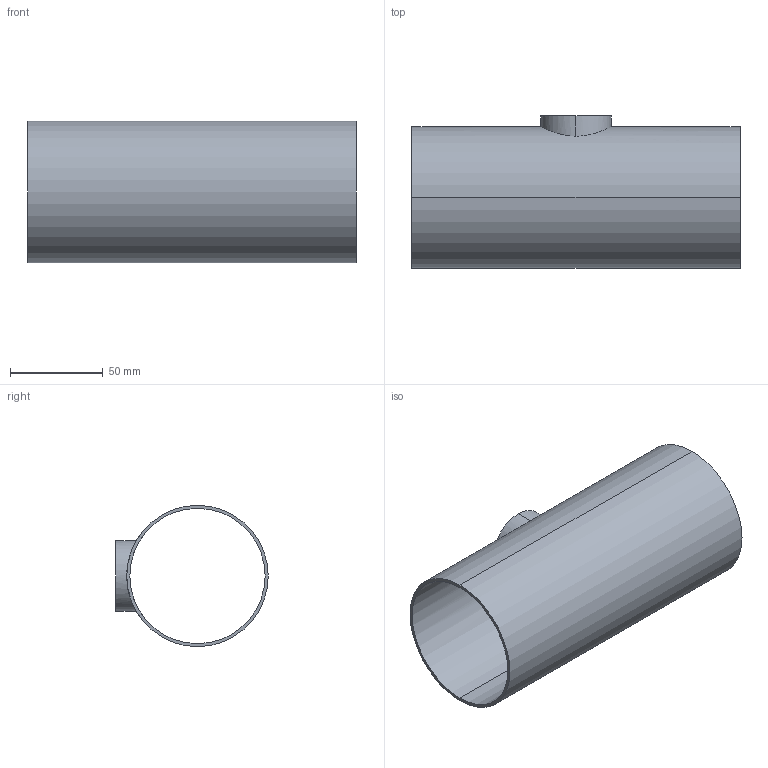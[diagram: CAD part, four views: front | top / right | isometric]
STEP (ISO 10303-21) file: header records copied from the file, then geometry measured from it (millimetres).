
FILE_DESCRIPTION (( 'STEP AP214' ), '1' );
FILE_NAME ('TEG7RS6L3.0x1.5-...STEP', '2016-05-24T10:52:11', ( 'eran' ), ( '' ), 'SwSTEP 2.0', 'SolidWorks 2016', '' );
FILE_SCHEMA (( 'AUTOMOTIVE_DESIGN' ));
Length unit declared in the file: millimetre
Products named in the file (1): TEG7RS6L3.0x1.5-..
Bounding box: 176.8 x 82.1 x 76.2 mm (x, y, z)
Volume: 68253.7 mm3; surface area: 83686 mm2
Topology: 1 solids, 1 shells, 11 faces, 24 edges, 16 vertices
Faces by surface type: cylinder 8, plane 3
Entity records: 560 total; most frequent: CARTESIAN_POINT 268, DIRECTION 56, ORIENTED_EDGE 48, AXIS2_PLACEMENT_3D 24, EDGE_CURVE 24, VERTEX_POINT 16, EDGE_LOOP 16, CIRCLE 12
